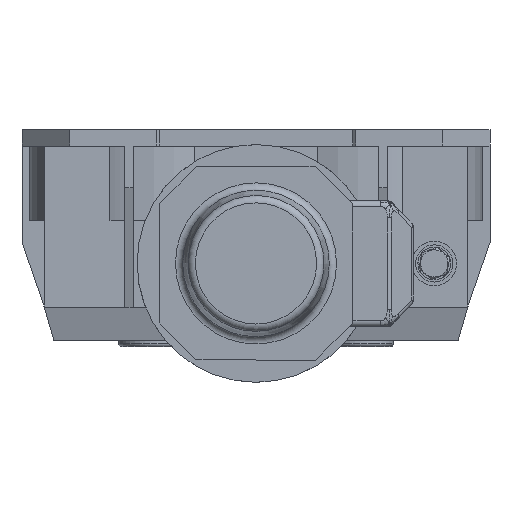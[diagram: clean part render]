
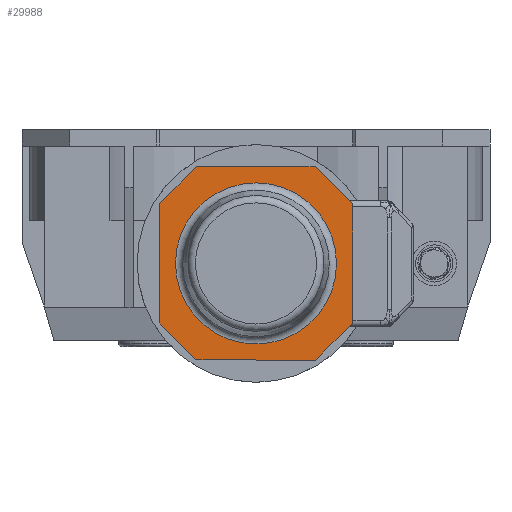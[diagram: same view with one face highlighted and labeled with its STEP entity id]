
A CAD part, front view. The second image highlights one B-rep face of the part: STEP entity #29988.
In plain terms, the highlighted planar face has unit normal (0, -1, 0) as drawn and (1, 0, 0) by its records, which use the part's own axes.
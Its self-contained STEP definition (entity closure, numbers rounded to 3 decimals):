
#29882=CARTESIAN_POINT('',(209.0,0.,54.212));
#29883=VERTEX_POINT('',#29882);
#29884=CARTESIAN_POINT('',(209.0,0.0,0.0));
#29885=DIRECTION('',(1.0,0.0,0.0));
#29886=DIRECTION('',(0.0,0.0,-1.0));
#29887=AXIS2_PLACEMENT_3D('',#29884,#29885,#29886);
#29888=CIRCLE('',#29887,54.212);
#29889=EDGE_CURVE('',#29883,#29883,#29888,.T.);
#29914=CARTESIAN_POINT('',(209.0,28.6,0.0));
#29915=DIRECTION('',(1.0,0.0,0.0));
#29916=DIRECTION('',(0.0,0.0,-1.0));
#29917=AXIS2_PLACEMENT_3D('',#29914,#29915,#29916);
#29918=PLANE('',#29917);
#29919=CARTESIAN_POINT('',(209.0,-65.0,40.251));
#29920=VERTEX_POINT('',#29919);
#29921=CARTESIAN_POINT('',(209.0,-40.251,65.0));
#29922=VERTEX_POINT('',#29921);
#29923=CARTESIAN_POINT('',(209.0,-65.0,40.251));
#29924=DIRECTION('',(0.0,0.707,0.707));
#29925=VECTOR('',#29924,35.);
#29926=LINE('',#29923,#29925);
#29927=EDGE_CURVE('',#29920,#29922,#29926,.T.);
#29928=ORIENTED_EDGE('',*,*,#29927,.F.);
#29929=CARTESIAN_POINT('',(209.0,-65.0,-40.251));
#29930=VERTEX_POINT('',#29929);
#29931=CARTESIAN_POINT('',(209.0,-65.0,-40.251));
#29932=DIRECTION('',(0.0,0.0,1.0));
#29933=VECTOR('',#29932,80.503);
#29934=LINE('',#29931,#29933);
#29935=EDGE_CURVE('',#29930,#29920,#29934,.T.);
#29936=ORIENTED_EDGE('',*,*,#29935,.F.);
#29937=CARTESIAN_POINT('',(209.0,-40.251,-65.0));
#29938=VERTEX_POINT('',#29937);
#29939=CARTESIAN_POINT('',(209.0,-40.251,-65.0));
#29940=DIRECTION('',(0.0,-0.707,0.707));
#29941=VECTOR('',#29940,35.0);
#29942=LINE('',#29939,#29941);
#29943=EDGE_CURVE('',#29938,#29930,#29942,.T.);
#29944=ORIENTED_EDGE('',*,*,#29943,.F.);
#29945=CARTESIAN_POINT('',(209.0,40.251,-65.0));
#29946=VERTEX_POINT('',#29945);
#29947=CARTESIAN_POINT('',(209.0,40.251,-65.0));
#29948=DIRECTION('',(0.0,-1.0,0.0));
#29949=VECTOR('',#29948,80.503);
#29950=LINE('',#29947,#29949);
#29951=EDGE_CURVE('',#29946,#29938,#29950,.T.);
#29952=ORIENTED_EDGE('',*,*,#29951,.F.);
#29953=CARTESIAN_POINT('',(209.0,65.0,-40.251));
#29954=VERTEX_POINT('',#29953);
#29955=CARTESIAN_POINT('',(209.0,65.0,-40.251));
#29956=DIRECTION('',(0.0,-0.707,-0.707));
#29957=VECTOR('',#29956,35.0);
#29958=LINE('',#29955,#29957);
#29959=EDGE_CURVE('',#29954,#29946,#29958,.T.);
#29960=ORIENTED_EDGE('',*,*,#29959,.F.);
#29961=CARTESIAN_POINT('',(209.0,65.0,40.251));
#29962=VERTEX_POINT('',#29961);
#29963=CARTESIAN_POINT('',(209.0,65.0,40.251));
#29964=DIRECTION('',(0.0,0.0,-1.0));
#29965=VECTOR('',#29964,80.503);
#29966=LINE('',#29963,#29965);
#29967=EDGE_CURVE('',#29962,#29954,#29966,.T.);
#29968=ORIENTED_EDGE('',*,*,#29967,.F.);
#29969=CARTESIAN_POINT('',(209.0,40.251,65.0));
#29970=VERTEX_POINT('',#29969);
#29971=CARTESIAN_POINT('',(209.0,40.251,65.0));
#29972=DIRECTION('',(0.0,0.707,-0.707));
#29973=VECTOR('',#29972,35.0);
#29974=LINE('',#29971,#29973);
#29975=EDGE_CURVE('',#29970,#29962,#29974,.T.);
#29976=ORIENTED_EDGE('',*,*,#29975,.F.);
#29977=CARTESIAN_POINT('',(209.0,-40.251,65.0));
#29978=DIRECTION('',(0.0,1.0,0.0));
#29979=VECTOR('',#29978,80.503);
#29980=LINE('',#29977,#29979);
#29981=EDGE_CURVE('',#29922,#29970,#29980,.T.);
#29982=ORIENTED_EDGE('',*,*,#29981,.F.);
#29983=EDGE_LOOP('',(#29928,#29936,#29944,#29952,#29960,#29968,#29976,#29982));
#29984=FACE_OUTER_BOUND('',#29983,.T.);
#29985=ORIENTED_EDGE('',*,*,#29889,.F.);
#29986=EDGE_LOOP('',(#29985));
#29987=FACE_BOUND('',#29986,.T.);
#29988=ADVANCED_FACE('',(#29984,#29987),#29918,.T.);
